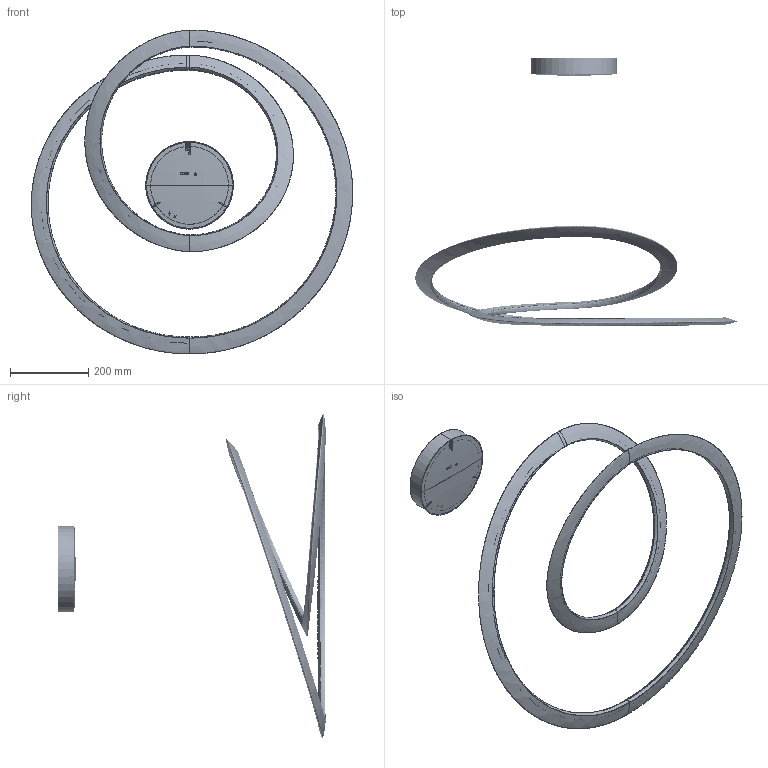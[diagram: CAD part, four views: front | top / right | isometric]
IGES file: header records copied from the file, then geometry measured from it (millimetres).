
Start section: SolidWorks IGES file using analytic representation for surfaces
Global section: file name: C:\Users\MarcoErba\Desktop\3D_KEPLER_UP_LIGHT.IGS; native system: SolidWorks 2016; preprocessor: SolidWorks 2016; author: MarcoErba; date: 220406.115455; units: millimetre
Bounding box: 822.09 x 684.9 x 828.66 mm (x, y, z)
Surface area: 822785.5 mm2 (no closed solid volume)
Topology: 0 solids, 0 shells, 276 faces, 2621 edges, 2618 vertices
Faces by surface type: bspline 252, revolution 24
